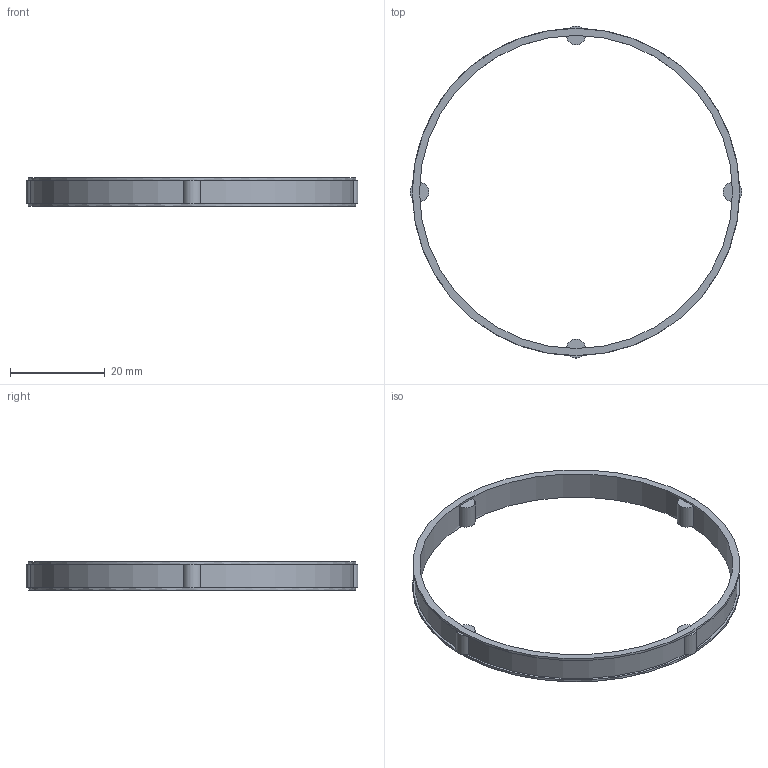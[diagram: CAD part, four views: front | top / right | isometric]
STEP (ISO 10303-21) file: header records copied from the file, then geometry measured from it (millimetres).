
FILE_DESCRIPTION(/* description */ (''),/* implementation_level */ '2;1');
FILE_NAME(/* name */ '302813 RL 470 - 4.stp',/* time_stamp */ '2016-11-10T15:41:07+01:00',/* author */ (''),/* organization */ (''),/* preprocessor_version */ 'ST-DEVELOPER v15',/* originating_system */ 'SIEMENS PLM Software NX 8.5',/* authorisation */ '');
FILE_SCHEMA (('CONFIG_CONTROL_DESIGN'));
Length unit declared in the file: millimetre
Products named in the file (1): ATE0000098_01
Bounding box: 69.99 x 69.99 x 6 mm (x, y, z)
Volume: 1544.7 mm3; surface area: 3483.5 mm2
Topology: 1 solids, 1 shells, 41 faces, 92 edges, 56 vertices
Faces by surface type: plane 26, cylinder 15
Full cylindrical faces by diameter (mm): 66 x1, 69 x2
Entity records: 1198 total; most frequent: DIRECTION 236, CARTESIAN_POINT 178, ORIENTED_EDGE 168, AXIS2_PLACEMENT_3D 110, EDGE_CURVE 84, CIRCLE 68, VERTEX_POINT 52, EDGE_LOOP 50
